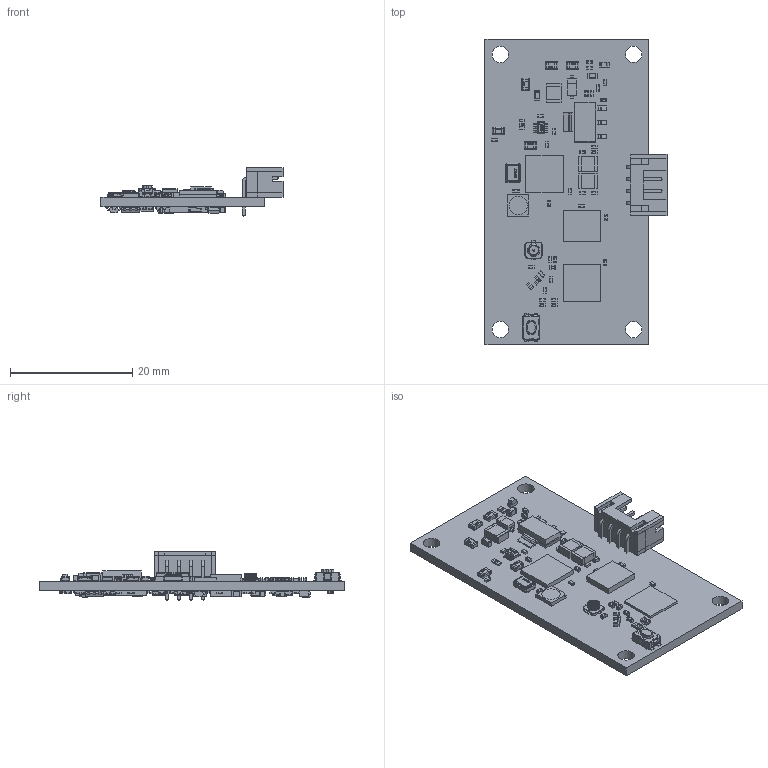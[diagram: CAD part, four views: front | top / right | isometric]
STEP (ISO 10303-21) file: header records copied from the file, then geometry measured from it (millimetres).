
FILE_DESCRIPTION(('Open CASCADE Model'),'2;1');
FILE_NAME('Open CASCADE Shape Model','2019-11-15T10:54:19',('Author'),( 'Open CASCADE'),'Open CASCADE STEP processor 6.8','Open CASCADE 6.8' ,'Unknown');
FILE_SCHEMA(('AUTOMOTIVE_DESIGN { 1 0 10303 214 1 1 1 1 }'));
Length unit declared in the file: millimetre
Products named in the file (184): PCB; Board; Open CASCADE STEP translator 6.8 2.2; User_Library-PH2_0-4P-1; ｦｦ+ｵ-2P; ｦa+ｵ; ｦｦ+ｵ-2P-1; ｦ++ｵ-2P; ｦs+d; U3; 663949024; Extruded; R45; User_Library-Chip_Resistor2; R41; L2; 760877920; D3; CircuitWorks-SOD123; D1; SOD-323; R42; C77; cap_0402; R26; RGB1; User_Library-HP-XI3535; C58; R21; R19; R15; R7; ANT1; SW3dPS-U.FL-R-SMT-1; C7; C6; R10; U7; 734497216; R23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
Assembly tree (303 placements, depth 4):
  PCB
    Board
    Open CASCADE STEP translator 6.8 2.2
      User_Library-PH2_0-4P-1
        ｦｦ+ｵ-2P
        ｦa+ｵ  x2
        ｦｦ+ｵ-2P-1
        ｦ++ｵ-2P
        ｦs+d  x4
    U3
      663949024
        Extruded
    R45
      User_Library-Chip_Resistor2
    R41
      User_Library-Chip_Resistor2
    L2
      760877920
    D3
      CircuitWorks-SOD123
    D1
      SOD-323
    R42
      User_Library-Chip_Resistor2
    C77
      cap_0402
    R26
      User_Library-Chip_Resistor2
    RGB1
      User_Library-HP-XI3535
    C58
      cap_0402
    R21
      User_Library-Chip_Resistor2
    R19
      User_Library-Chip_Resistor2
    R15
      User_Library-Chip_Resistor2
    R7
      User_Library-Chip_Resistor2
    ANT1
      SW3dPS-U.FL-R-SMT-1
    C7
      cap_0402
    C6
      cap_0402
    R10
      User_Library-Chip_Resistor2
    U7
      734497216
        Extruded
    R23
      User_Library-Chip_Resistor2
    R22
      User_Library-Chip_Resistor2
    FB7
      User_Library-Chip_Inductor_(2)
    FB6
      User_Library-Chip_Inductor_(2)
    FB5
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Bounding box: 29.77 x 50 x 7.95 mm (x, y, z)
Volume: 2612.6 mm3; surface area: 4924.5 mm2
Topology: 174 solids, 174 shells, 7429 faces, 17400 edges, 9628 vertices
Faces by surface type: plane 3029, cylinder 2633, sphere 936, bspline 776, torus 45, cone 8, revolution 2
Full cylindrical faces by diameter (mm): 0.6 x2, 2.7 x4
Entity records: 74491 total; most frequent: CARTESIAN_POINT 23816, ORIENTED_EDGE 8674, DIRECTION 8267, EDGE_CURVE 4337, LINE 2941, VECTOR 2941, VERTEX_POINT 2706, AXIS2_PLACEMENT_3D 2662
